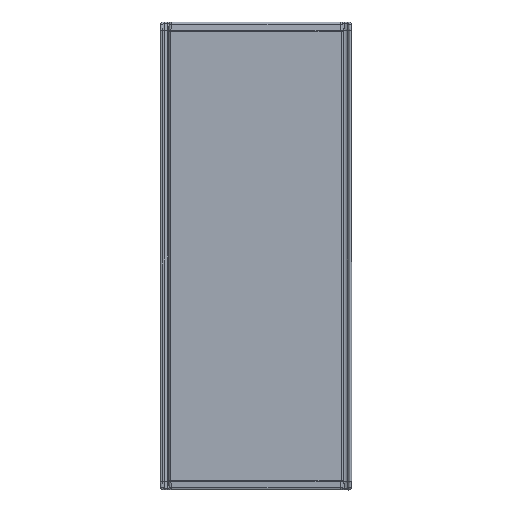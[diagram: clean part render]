
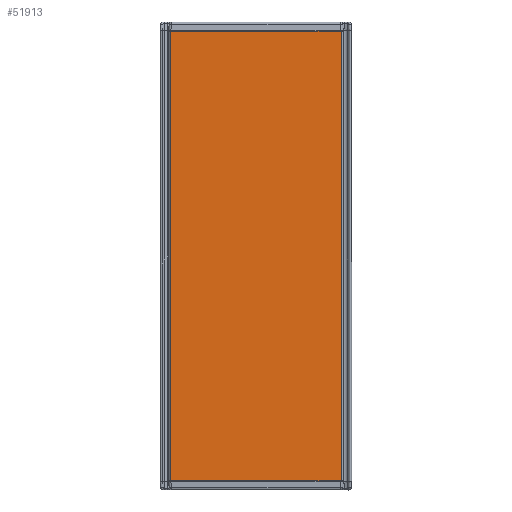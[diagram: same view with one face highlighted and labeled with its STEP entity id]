
A CAD part, top view. The second image highlights one B-rep face of the part: STEP entity #51913.
In plain terms, the highlighted planar face has unit normal (0, 0, 1).
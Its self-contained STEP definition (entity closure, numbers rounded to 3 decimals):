
#51608 = EDGE_CURVE('',#51609,#51611,#51613,.T.);
#51609 = VERTEX_POINT('',#51610);
#51610 = CARTESIAN_POINT('',(200.,-527.972,51.));
#51611 = VERTEX_POINT('',#51612);
#51612 = CARTESIAN_POINT('',(200.,527.972,51.));
#51613 = LINE('',#51614,#51615);
#51614 = CARTESIAN_POINT('',(200.,-527.972,51.));
#51615 = VECTOR('',#51616,1.);
#51616 = DIRECTION('',(0.,1.,0.));
#51675 = EDGE_CURVE('',#51676,#51611,#51678,.T.);
#51676 = VERTEX_POINT('',#51677);
#51677 = CARTESIAN_POINT('',(-200.,527.972,51.));
#51678 = LINE('',#51679,#51680);
#51679 = CARTESIAN_POINT('',(-200.,527.972,51.));
#51680 = VECTOR('',#51681,1.);
#51681 = DIRECTION('',(1.,0.,0.));
#51894 = VERTEX_POINT('',#51895);
#51895 = CARTESIAN_POINT('',(-200.,-527.972,51.));
#51902 = EDGE_CURVE('',#51894,#51676,#51903,.T.);
#51903 = LINE('',#51904,#51905);
#51904 = CARTESIAN_POINT('',(-200.,-527.972,51.));
#51905 = VECTOR('',#51906,1.);
#51906 = DIRECTION('',(0.,1.,0.));
#51913 = ADVANCED_FACE('',(#51914),#51925,.T.);
#51914 = FACE_BOUND('',#51915,.F.);
#51915 = EDGE_LOOP('',(#51916,#51917,#51918,#51924));
#51916 = ORIENTED_EDGE('',*,*,#51675,.T.);
#51917 = ORIENTED_EDGE('',*,*,#51608,.F.);
#51918 = ORIENTED_EDGE('',*,*,#51919,.T.);
#51919 = EDGE_CURVE('',#51609,#51894,#51920,.T.);
#51920 = LINE('',#51921,#51922);
#51921 = CARTESIAN_POINT('',(200.,-527.972,51.));
#51922 = VECTOR('',#51923,1.);
#51923 = DIRECTION('',(-1.,0.,0.));
#51924 = ORIENTED_EDGE('',*,*,#51902,.T.);
#51925 = PLANE('',#51926);
#51926 = AXIS2_PLACEMENT_3D('',#51927,#51928,#51929);
#51927 = CARTESIAN_POINT('',(-200.,-529.25,51.));
#51928 = DIRECTION('',(0.,0.,1.));
#51929 = DIRECTION('',(1.,0.,0.));
